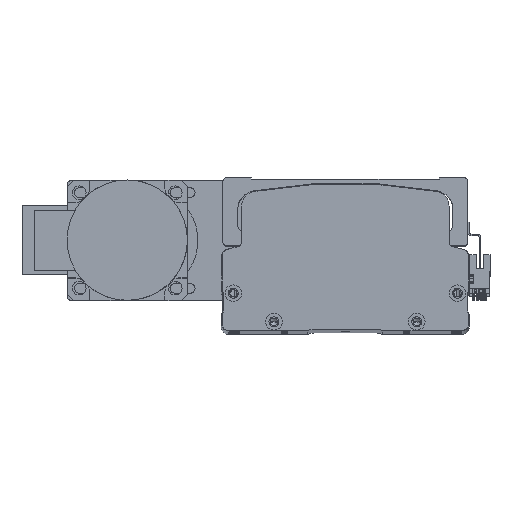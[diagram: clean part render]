
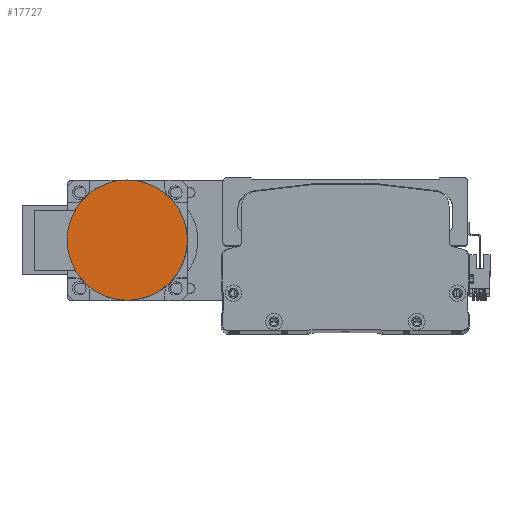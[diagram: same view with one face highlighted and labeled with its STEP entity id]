
A CAD part, top view. The second image highlights one B-rep face of the part: STEP entity #17727.
In plain terms, the highlighted planar face has unit normal (0, 0, 1) as drawn and (0, -1, 0) by its records, which use the part's own axes.
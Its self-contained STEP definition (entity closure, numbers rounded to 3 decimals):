
#439 = AXIS2_PLACEMENT_3D ( 'NONE', #51122, #21579, #56088 ) ;
#6696 = CARTESIAN_POINT ( 'NONE',  ( 0., -27., -40. ) ) ;
#7754 = CARTESIAN_POINT ( 'NONE',  ( 0., -27., 40. ) ) ;
#8026 = EDGE_LOOP ( 'NONE', ( #61274, #37100 ) ) ;
#9979 = EDGE_CURVE ( 'NONE', #63912, #63844, #52843, .T. ) ;
#10275 = CARTESIAN_POINT ( 'NONE',  ( 0., -27., 0. ) ) ;
#10560 = AXIS2_PLACEMENT_3D ( 'NONE', #33712, #48642, #19172 ) ;
#14287 = CIRCLE ( 'NONE', #439, 40. ) ;
#15217 = DIRECTION ( 'NONE',  ( 0., 0., -1. ) ) ;
#16632 = FACE_OUTER_BOUND ( 'NONE', #8026, .T. ) ;
#17697 = AXIS2_PLACEMENT_3D ( 'NONE', #10275, #44722, #15217 ) ;
#17727 = ADVANCED_FACE ( 'NONE', ( #16632 ), #63333, .F. ) ;
#19172 = DIRECTION ( 'NONE',  ( 0., 0., 1. ) ) ;
#21579 = DIRECTION ( 'NONE',  ( 0., -1., 0. ) ) ;
#33712 = CARTESIAN_POINT ( 'NONE',  ( 0., -27., 0. ) ) ;
#37100 = ORIENTED_EDGE ( 'NONE', *, *, #9979, .T. ) ;
#44722 = DIRECTION ( 'NONE',  ( 0., -1., 0. ) ) ;
#46837 = EDGE_CURVE ( 'NONE', #63844, #63912, #14287, .T. ) ;
#48642 = DIRECTION ( 'NONE',  ( 0., 1., 0. ) ) ;
#51122 = CARTESIAN_POINT ( 'NONE',  ( 0., -27., 0. ) ) ;
#52843 = CIRCLE ( 'NONE', #17697, 40. ) ;
#56088 = DIRECTION ( 'NONE',  ( 0., 0., -1. ) ) ;
#61274 = ORIENTED_EDGE ( 'NONE', *, *, #46837, .T. ) ;
#63333 = PLANE ( 'NONE',  #10560 ) ;
#63844 = VERTEX_POINT ( 'NONE', #6696 ) ;
#63912 = VERTEX_POINT ( 'NONE', #7754 ) ;
